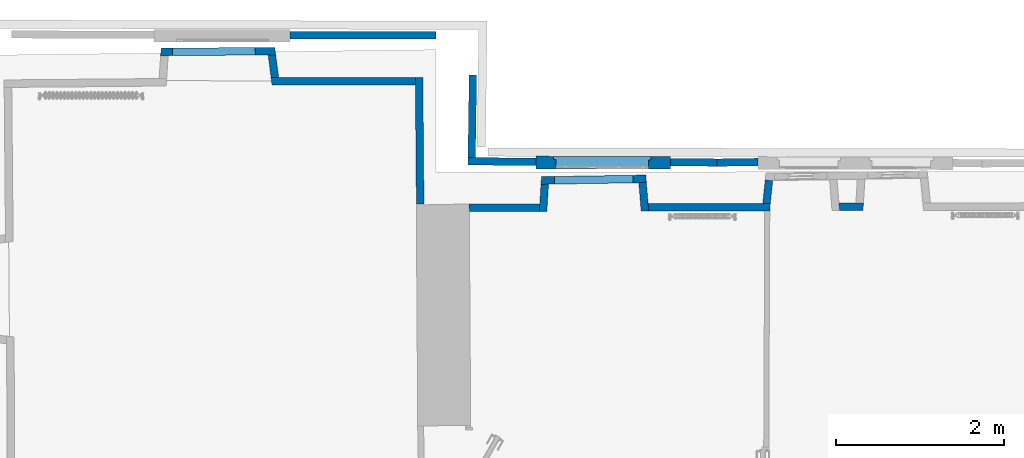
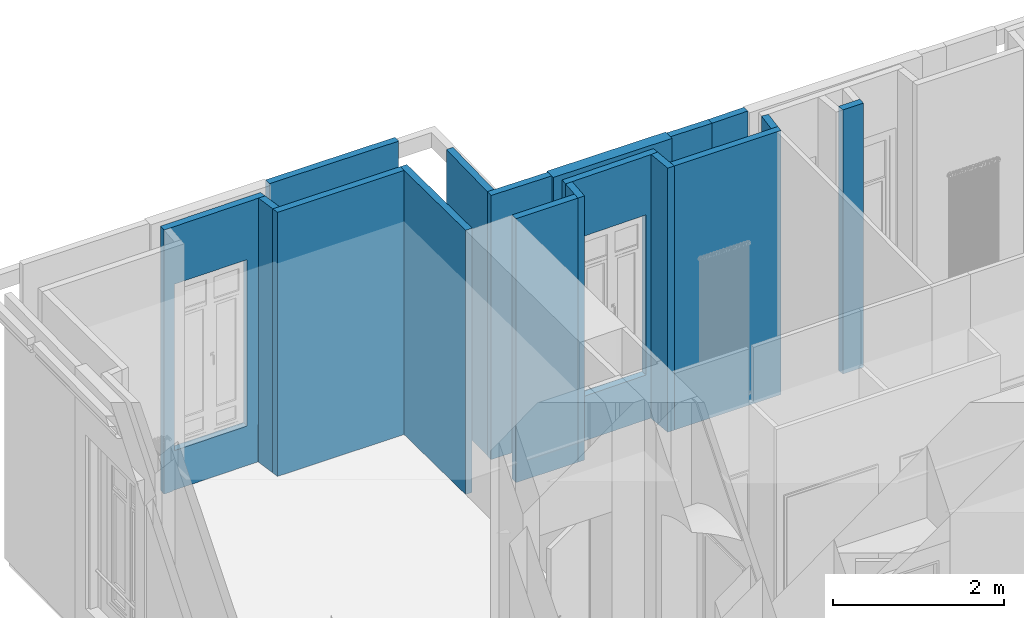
# One storey, part 15 of 66: 17 walls, 5 openings.
"""IFC2X3 building model written with IfcOpenShell, lengths in centimetres."""

from ifc_helpers import new_model, entity, si_unit, converted_unit, direction, frame, origin, origin_with_axes, origin_2d_with_axis, place, context, subcontext, project, spatial, polyline, rectangle, outline, extrude, faceted_brep, shape, material, layer, layer_set, layer_usage, type_object, element, save


model = new_model("IFC2X3")

# Units and contexts
model_context = context("Model", 3, precision=0.0001, world=origin(), true_north=direction((0.225632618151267, 0.974212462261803, 0.0)))
body_context = subcontext(model_context, "Body", "Model", "MODEL_VIEW")
footprint_context = subcontext(model_context, "FootPrint", "Model", "MODEL_VIEW")
profile_context = subcontext(model_context, "Profile", "Model", "MODEL_VIEW")
ifc_project = project(units=[si_unit("LENGTHUNIT", "METRE", prefix="CENTI"), si_unit("AREAUNIT", "SQUARE_METRE", prefix="CENTI"), si_unit("VOLUMEUNIT", "CUBIC_METRE", prefix="CENTI"), converted_unit("PLANEANGLEUNIT", "DEGREE", entity("IfcRatioMeasure", 0.0174532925), si_unit("PLANEANGLEUNIT", "RADIAN"), dimensions=[0, 0, 0, 0, 0, 0, 0])], contexts=[model_context])

# Site, building, storey
site_placement = place(None, origin_with_axes())
site = spatial("IfcSite", under=ifc_project, at=site_placement, Name="Default Site", CompositionType="ELEMENT")
building_placement = place(site_placement, origin_with_axes())
building = spatial("IfcBuilding", under=site, at=building_placement, Name="Default Building", CompositionType="ELEMENT")
storey_placement = place(building_placement, frame((0.0, 0.0, 477.795358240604), z_axis=(0.0, 0.0, 1.0), x_axis=(1.0, 0.0, 0.0)))
storey = spatial("IfcBuildingStorey", under=building, at=storey_placement, Name="Niveau 1", CompositionType="ELEMENT", Elevation=477.795358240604)

# Wall
ifc_material = material(Name="<aucun>")
ifc_layer_1 = layer(ifc_material, 9.0)
ifc_layer_set_1 = layer_set([ifc_layer_1], Name="default")
ifc_layer_usage_1 = layer_usage(ifc_layer_set_1, "AXIS2", "POSITIVE", -4.5)
wall_type_1 = type_object("IfcWallType", Name="default 90", PredefinedType="NOTDEFINED", material=ifc_layer_set_1)
wall_1_placement = place(storey_placement, frame((-458.289497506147, 551.679989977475, 0.0128503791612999), z_axis=(0.0, 0.0, 1.0), x_axis=(0.999997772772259, 0.00211055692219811, 0.0)))
element("IfcWallStandardCase", 1, at=wall_1_placement, inside=storey, type_object=wall_type_1, material=ifc_layer_usage_1, Name="Enveloppe 598906", context=body_context, shape_type="SweptSolid", body=[
    extrude(outline(polyline([(8.29841504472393, 4.50000000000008), (9.02436752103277, -4.49999999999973), (153.047073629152, -4.49999999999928), (153.065861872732, -1.60893389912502), (153.72388298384, 4.50000000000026), (8.29841504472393, 4.50000000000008)])), frame((0.0, 0.0, -1.77635683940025e-13), z_axis=(0.0, 0.0, 1.0), x_axis=(1.0, 0.0, 0.0)), (0.0, 0.0, 1.0), 376.102165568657),
])

# Wall, openings
ifc_layer_usage_2 = layer_usage(ifc_layer_set_1, "AXIS2", "POSITIVE", -4.5)
wall_2_placement = place(storey_placement, frame((-572.667445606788, 583.635452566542, 0.0128503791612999), z_axis=(0.0, 0.0, 1.0), x_axis=(0.999874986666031, 0.0158117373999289, 0.0)))
wall_2 = element("IfcWallStandardCase", 2, at=wall_2_placement, inside=storey, type_object=wall_type_1, material=ifc_layer_usage_2, Name="Enveloppe 598955", context=body_context, shape_type="SweptSolid", body=[
    extrude(outline(polyline([(-4.86319267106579, -4.4999999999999), (111.533863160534, -4.50000000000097), (120.51379938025, -3.89937907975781), (119.952008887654, 4.49999999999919), (-4.16393126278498, 4.50000000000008), (-4.86319267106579, -4.4999999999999)])), frame((0.0, 0.0, -8.88178419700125e-14), z_axis=(0.0, 0.0, 1.0), x_axis=(1.0, 0.0, 0.0)), (0.0, 0.0, 1.0), 376.102165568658),
])
opening_1_placement = place(wall_2_placement, frame((4.20605895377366, -2.27373675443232e-13, -1.78523862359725e-13), z_axis=(0.0, 0.0, 1.0), x_axis=(-1.0, 6.25888230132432e-15, 0.0)))
cartesian_point_1 = entity("IfcCartesianPoint", [0.0, 0.0, 60.9999999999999])
cartesian_point_2 = entity("IfcCartesianPoint", [-107.642500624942, -4.50000000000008])
element("IfcOpeningElement", 3, at=opening_1_placement, cuts=wall_2, Name="Baie 103653", ObjectType="Recess", shapes=[
    shape(body_context, "Body", "Brep", [faceted_brep([(-1.22123264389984e-05, 24.5000131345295, -1.92276753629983e-05), (-107.642482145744, 24.5000131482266, -1.92276753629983e-05), (-107.642482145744, 24.5000131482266, 60.9999941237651), (-1.22123264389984e-05, 24.5000131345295, 60.9999941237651), (-1.22149986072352e-05, 3.50000628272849, 60.9999941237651), (-1.22149986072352e-05, 3.50000628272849, -1.92276753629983e-05), (1.05937600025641e-05, 3.50000628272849, -1.92276753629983e-05), (-107.642507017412, 3.49999895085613, -1.92276753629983e-05), (-107.642482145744, 24.5000050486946, -1.92276753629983e-05), (-107.642482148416, 3.49999895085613, -1.92276753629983e-05), (-107.642482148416, 3.49999895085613, 60.9999941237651), (-107.642482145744, 24.5000050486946, 60.9999941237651), (-107.642507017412, 3.49999895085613, 60.9999941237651), (1.05937600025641e-05, 3.50000628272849, 60.9999941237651), (1.05937600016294e-05, 3.49999893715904, -1.92276753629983e-05), (1.05937600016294e-05, 3.49999893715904, 60.9999941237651)], [[[0, 1, 2, 3]], [[3, 4, 5, 0]], [[0, 6, 7, 8]], [[8, 9, 10, 11]], [[11, 12, 13, 3]], [[12, 7, 14, 15]]])]),
    shape(profile_context, "Profile", "GeometricCurveSet", [entity("IfcGeometricCurveSet", [entity("IfcPolyline", [cartesian_point_1, entity("IfcCartesianPoint", [0.0, 0.0, -8.88178419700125e-14]), entity("IfcCartesianPoint", [-107.642500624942, -8.88178419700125e-14, -8.88178419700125e-14]), entity("IfcCartesianPoint", [-107.642500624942, -8.88178419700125e-14, 60.9999999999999]), cartesian_point_1])])]),
    shape(footprint_context, "FootPrint", "GeometricCurveSet", [entity("IfcGeometricCurveSet", [entity("IfcPolyline", [cartesian_point_2, entity("IfcCartesianPoint", [8.88178419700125e-14, -4.50000000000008]), entity("IfcCartesianPoint", [0.0, 4.49999999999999]), entity("IfcCartesianPoint", [-107.642500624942, 4.49999999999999]), cartesian_point_2])])]),
])
opening_2_placement = place(wall_2_placement, frame((11.2718874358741, -1.13686837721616e-13, 64.5871496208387), z_axis=(0.0, 0.0, 1.0), x_axis=(-1.0, 6.25888230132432e-15, 0.0)))
cartesian_point_3 = entity("IfcCartesianPoint", [0.0, 8.88178419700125e-14, 228.0])
cartesian_point_4 = entity("IfcCartesianPoint", [-93.3169181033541, -4.49999999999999])
element("IfcOpeningElement", 4, at=opening_2_placement, cuts=wall_2, Name="4294966423_11", ObjectType="Opening", shapes=[
    shape(body_context, "Body", "SweptSolid", [extrude(outline(polyline([(-8.88178419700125e-14, 228.0), (-8.88178419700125e-14, 0.0), (93.3169181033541, 0.0), (93.3169181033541, 228.0), (-8.88178419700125e-14, 228.0)])), frame((0.0, -14.5, 0.0), z_axis=(0.0, 1.0, 0.0), x_axis=(-1.0, 0.0, 0.0)), (0.0, 0.0, 1.0), 29.0)]),
    shape(profile_context, "Profile", "GeometricCurveSet", [entity("IfcGeometricCurveSet", [entity("IfcPolyline", [cartesian_point_3, entity("IfcCartesianPoint", [0.0, 8.88178419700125e-14, 0.0]), entity("IfcCartesianPoint", [-93.3169181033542, 0.0, 0.0]), entity("IfcCartesianPoint", [-93.3169181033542, 0.0, 228.0]), cartesian_point_3])])]),
    shape(footprint_context, "FootPrint", "GeometricCurveSet", [entity("IfcGeometricCurveSet", [entity("IfcPolyline", [cartesian_point_4, entity("IfcCartesianPoint", [8.88178419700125e-14, -4.4999999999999]), entity("IfcCartesianPoint", [8.88178419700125e-14, 4.50000000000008]), entity("IfcCartesianPoint", [-93.3169181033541, 4.49999999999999]), cartesian_point_4])])]),
])

# Walls
ifc_layer_usage_3 = layer_usage(ifc_layer_set_1, "AXIS2", "POSITIVE", -4.5)
wall_3_placement = place(storey_placement, frame((-453.800008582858, 547.548886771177, 0.0128503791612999), z_axis=(0.0, 0.0, 1.0), x_axis=(-0.0825038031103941, 0.996590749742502, 0.0)))
element("IfcWallStandardCase", 5, at=wall_3_placement, inside=storey, type_object=wall_type_1, material=ifc_layer_usage_3, Name="Enveloppe 598813", context=body_context, shape_type="SweptSolid", body=[
    extrude(outline(polyline([(33.8372994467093, 4.50000000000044), (0.00237818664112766, 4.4999999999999), (-0.723574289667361, -4.50000000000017), (33.8372994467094, -4.49999999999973), (33.8372994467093, 4.50000000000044)])), frame((0.0, 0.0, -2.66453525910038e-13), z_axis=(0.0, 0.0, 1.0), x_axis=(1.0, 0.0, 0.0)), (0.0, 0.0, 1.0), 376.102165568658),
])
ifc_layer_usage_4 = layer_usage(ifc_layer_set_1, "AXIS2", "POSITIVE", -4.5)
wall_4_placement = place(storey_placement, frame((-574.918343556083, 547.216726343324, 0.0128503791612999), z_axis=(0.0, 0.0, 1.0), x_axis=(0.0616883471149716, 0.998095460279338, 0.0)))
element("IfcWallStandardCase", 6, at=wall_4_placement, inside=storey, type_object=wall_type_1, material=ifc_layer_usage_4, Name="Enveloppe 599147", context=body_context, shape_type="SweptSolid", body=[
    extrude(outline(polyline([(-0.57113787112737, 4.4999999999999), (0.00418676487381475, -4.49999999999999), (32.3242882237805, -4.50000000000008), (31.6250268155, 4.4999999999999), (-0.57113787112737, 4.4999999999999)])), frame((0.0, 0.0, 3.5527136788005e-13), z_axis=(0.0, 0.0, 1.0), x_axis=(1.0, 0.0, 0.0)), (0.0, 0.0, 1.0), 376.102165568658),
])
ifc_layer_usage_5 = layer_usage(ifc_layer_set_1, "AXIS2", "POSITIVE", -4.5)
wall_5_placement = place(storey_placement, frame((-662.774094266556, 551.248412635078, 0.0128503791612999), z_axis=(0.0, 0.0, 1.0), x_axis=(0.999997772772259, 0.00211055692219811, 0.0)))
element("IfcWallStandardCase", 7, at=wall_5_placement, inside=storey, type_object=wall_type_1, material=ifc_layer_usage_5, Name="Enveloppe 599253", context=body_context, shape_type="SweptSolid", body=[
    extrude(outline(polyline([(-0.0412481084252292, 4.49926005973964), (8.88178419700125e-14, -4.4999999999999), (83.3197766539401, -4.49999999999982), (83.8951012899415, 4.50000000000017), (-0.0412481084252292, 4.49926005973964)])), frame((0.0, 0.0, 1.77635683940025e-13), z_axis=(0.0, 0.0, 1.0), x_axis=(1.0, 0.0, 0.0)), (0.0, 0.0, 1.0), 376.102165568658),
])
ifc_layer_usage_6 = layer_usage(ifc_layer_set_1, "AXIS2", "POSITIVE", -4.5)
wall_6_placement = place(storey_placement, frame((-231.190129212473, 552.159297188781, 0.0128503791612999), z_axis=(0.0, 0.0, 1.0), x_axis=(0.999997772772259, 0.00211055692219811, 0.0)))
element("IfcWallStandardCase", 8, at=wall_6_placement, inside=storey, type_object=wall_type_1, material=ifc_layer_usage_6, Name="Enveloppe 600611", context=body_context, shape_type="SweptSolid", body=[
    extrude(outline(polyline([(8.28508144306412, 4.50000000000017), (9.00940482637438, -4.4999999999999), (36.7798989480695, -4.49999999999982), (37.3615292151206, 4.49999999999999), (8.28508144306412, 4.50000000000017)])), origin_with_axes(), (0.0, 0.0, 1.0), 376.102165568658),
])
ifc_layer_usage_7 = layer_usage(ifc_layer_set_1, "AXIS2", "POSITIVE", -4.5)
wall_7_placement = place(storey_placement, frame((-310.003293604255, 547.953298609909, 0.0128503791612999), z_axis=(0.0, 0.0, 1.0), x_axis=(0.104996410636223, 0.994472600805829, 0.0)))
element("IfcWallStandardCase", 9, at=wall_7_placement, inside=storey, type_object=wall_type_1, material=ifc_layer_usage_7, Name="Enveloppe 599931", context=body_context, shape_type="SweptSolid", body=[
    extrude(outline(polyline([(8.10433148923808, 4.49999999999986), (9.07376250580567, -4.50000000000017), (36.1382936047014, -4.50000000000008), (36.1382936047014, 4.49999999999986), (8.10433148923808, 4.49999999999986)])), frame((0.0, 0.0, -1.77635683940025e-13), z_axis=(0.0, 0.0, 1.0), x_axis=(1.0, 0.0, 0.0)), (0.0, 0.0, 1.0), 376.102165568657),
])
ifc_layer_usage_8 = layer_usage(ifc_layer_set_1, "AXIS2", "POSITIVE", -4.5)
wall_8_placement = place(storey_placement, frame((-726.901299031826, 701.47330937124, 0.0128503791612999), z_axis=(0.0, 0.0, 1.0), x_axis=(-0.999999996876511, 7.90378317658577e-05, 0.0)))
element("IfcWallStandardCase", 10, at=wall_8_placement, inside=storey, type_object=wall_type_1, material=ifc_layer_usage_8, Name="Enveloppe 601010", context=body_context, shape_type="SweptSolid", body=[
    extrude(outline(polyline([(171.655447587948, -4.49928262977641), (170.481127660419, 4.50071737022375), (-0.000711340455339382, 4.49999994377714), (2.8332891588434e-11, -4.49999999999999), (171.655447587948, -4.49928262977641)])), frame((0.0, 0.0, 3.5527136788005e-13), z_axis=(0.0, 0.0, 1.0), x_axis=(1.0, 0.0, 0.0)), (0.0, 0.0, 1.0), 376.102165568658),
])
ifc_layer_usage_9 = layer_usage(ifc_layer_set_1, "AXIS2", "POSITIVE", -4.5)
wall_9_placement = place(storey_placement, frame((-892.922933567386, 697.586858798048, 0.0128503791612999), z_axis=(0.0, 0.0, 1.0), x_axis=(-0.129304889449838, 0.991604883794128, 0.0)))
element("IfcWallStandardCase", 11, at=wall_9_placement, inside=storey, type_object=wall_type_1, material=ifc_layer_usage_9, Name="Enveloppe 601044", context=body_context, shape_type="SweptSolid", body=[
    extrude(outline(polyline([(36.3586303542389, 4.50000000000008), (9.05722088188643, 4.50009275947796), (7.88361230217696, -4.49999999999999), (35.2657350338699, -4.4999999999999), (36.3586303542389, 4.50000000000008)])), frame((0.0, 0.0, 1.77635683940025e-13), z_axis=(0.0, 0.0, 1.0), x_axis=(1.0, 0.0, 0.0)), (0.0, 0.0, 1.0), 376.102165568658),
])

# Wall, openings
ifc_layer_usage_10 = layer_usage(ifc_layer_set_1, "AXIS2", "POSITIVE", -4.5)
wall_10_placement = place(storey_placement, frame((-1025.23469400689, 736.471525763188, 0.0128503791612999), z_axis=(0.0, 0.0, 1.0), x_axis=(0.999961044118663, 0.00882667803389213, 0.0)))
wall_10 = element("IfcWallStandardCase", 12, at=wall_10_placement, inside=storey, type_object=wall_type_1, material=ifc_layer_usage_10, Name="Enveloppe 93830", context=body_context, shape_type="SweptSolid", body=[
    extrude(outline(polyline([(-4.82733297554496, -4.4999999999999), (132.179379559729, -4.49999999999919), (131.08648423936, 4.50000000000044), (-4.16534960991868, 4.49999999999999), (-4.82733297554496, -4.4999999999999)])), origin_with_axes(), (0.0, 0.0, 1.0), 376.102165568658),
])
opening_3_placement = place(wall_10_placement, frame((6.79993286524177, 3.41060513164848e-13, 1.77635683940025e-13), z_axis=(0.0, 0.0, 1.0), x_axis=(-1.0, -3.77128883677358e-15, 0.0)))
cartesian_point_5 = entity("IfcCartesianPoint", [0.0, 8.88178419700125e-14, 54.0])
cartesian_point_6 = entity("IfcCartesianPoint", [-116.319956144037, -4.49999999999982])
element("IfcOpeningElement", 13, at=opening_3_placement, cuts=wall_10, Name="Baie 115411", ObjectType="Recess", shapes=[
    shape(body_context, "Body", "Brep", [faceted_brep([(3.09080713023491e-05, 24.4999918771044, -1.92276756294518e-05), (-116.319960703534, 24.4999918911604, -1.92276756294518e-05), (-116.319960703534, 24.4999918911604, 53.9999769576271), (3.09080713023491e-05, 24.4999918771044, 53.9999769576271), (3.09055336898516e-05, 3.4999811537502, 53.9999769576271), (3.09055336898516e-05, 3.4999811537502, -1.92276756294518e-05), (-3.05080069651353e-05, 3.49998115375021, -1.92276756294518e-05), (-116.319926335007, 3.50002133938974, -1.92276756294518e-05), (-116.319960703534, 24.4999852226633, -1.92276756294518e-05), (-116.319960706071, 3.50002133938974, -1.92276756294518e-05), (-116.319960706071, 3.50002133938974, 53.9999769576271), (-116.319960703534, 24.4999852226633, 53.9999769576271), (-116.319926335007, 3.50002133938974, 53.9999769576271), (-3.05080069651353e-05, 3.49998115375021, 53.9999769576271), (-3.05080069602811e-05, 3.5000213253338, -1.92276756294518e-05), (-3.05080069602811e-05, 3.5000213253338, 53.9999769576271)], [[[0, 1, 2, 3]], [[3, 4, 5, 0]], [[0, 6, 7, 8]], [[8, 9, 10, 11]], [[11, 12, 13, 3]], [[12, 7, 14, 15]]])]),
    shape(profile_context, "Profile", "GeometricCurveSet", [entity("IfcGeometricCurveSet", [entity("IfcPolyline", [cartesian_point_5, entity("IfcCartesianPoint", [0.0, 8.88178419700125e-14, 0.0]), entity("IfcCartesianPoint", [-116.319956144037, 8.88178419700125e-14, 0.0]), entity("IfcCartesianPoint", [-116.319956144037, 8.88178419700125e-14, 54.0]), cartesian_point_5])])]),
    shape(footprint_context, "FootPrint", "GeometricCurveSet", [entity("IfcGeometricCurveSet", [entity("IfcPolyline", [cartesian_point_6, entity("IfcCartesianPoint", [0.0, -4.49999999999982]), entity("IfcCartesianPoint", [1.77635683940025e-13, 4.49999999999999]), entity("IfcCartesianPoint", [-116.319956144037, 4.49999999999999]), cartesian_point_6])])]),
])
opening_4_placement = place(wall_10_placement, frame((9.50330278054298, 0.0, 56.9871496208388), z_axis=(0.0, 0.0, 1.0), x_axis=(-1.0, -3.77128883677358e-15, 0.0)))
cartesian_point_7 = entity("IfcCartesianPoint", [0.0, 0.0, 237.0])
cartesian_point_8 = entity("IfcCartesianPoint", [-98.3512092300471, -4.50000000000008])
element("IfcOpeningElement", 14, at=opening_4_placement, cuts=wall_10, Name="4294966426_11", ObjectType="Opening", shapes=[
    shape(body_context, "Body", "SweptSolid", [extrude(outline(polyline([(-1.77635683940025e-13, 237.0), (-1.77635683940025e-13, 0.0), (98.3512092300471, 0.0), (98.3512092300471, 237.0), (-1.77635683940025e-13, 237.0)])), frame((0.0, -14.5, 0.0), z_axis=(0.0, 1.0, 0.0), x_axis=(-1.0, 0.0, 0.0)), (0.0, 0.0, 1.0), 29.0)]),
    shape(profile_context, "Profile", "GeometricCurveSet", [entity("IfcGeometricCurveSet", [entity("IfcPolyline", [cartesian_point_7, entity("IfcCartesianPoint", [0.0, 0.0, 0.0]), entity("IfcCartesianPoint", [-98.3512092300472, -8.88178419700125e-14, 0.0]), entity("IfcCartesianPoint", [-98.3512092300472, -8.88178419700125e-14, 237.0]), cartesian_point_7])])]),
    shape(footprint_context, "FootPrint", "GeometricCurveSet", [entity("IfcGeometricCurveSet", [entity("IfcPolyline", [cartesian_point_8, entity("IfcCartesianPoint", [1.77635683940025e-13, -4.50000000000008]), entity("IfcCartesianPoint", [1.77635683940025e-13, 4.4999999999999]), entity("IfcCartesianPoint", [-98.3512092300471, 4.49999999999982]), cartesian_point_8])])]),
])

# Walls
ifc_layer_usage_11 = layer_usage(ifc_layer_set_1, "AXIS2", "POSITIVE", -4.5)
wall_11_placement = place(storey_placement, frame((-721.086848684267, 546.208300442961, 0.0128503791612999), z_axis=(0.0, 0.0, 1.0), x_axis=(-0.00871943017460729, 0.999961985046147, 0.0)))
element("IfcWallStandardCase", 15, at=wall_11_placement, inside=storey, type_object=wall_type_1, material=ifc_layer_usage_11, Name="Enveloppe 93842", context=body_context, shape_type="SweptSolid", body=[
    extrude(outline(polyline([(150.809972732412, 4.49928869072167), (9.38749339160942, 4.50000000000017), (9.38749339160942, -4.4999999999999), (159.731138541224, -4.49999999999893), (159.809377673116, 4.42081602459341), (150.809972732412, 4.49928869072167)])), frame((0.0, 0.0, -1.77635683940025e-13), z_axis=(0.0, 0.0, 1.0), x_axis=(1.0, 0.0, 0.0)), (0.0, 0.0, 1.0), 376.102165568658),
])
ifc_layer_usage_12 = layer_usage(ifc_layer_set_1, "AXIS2", "POSITIVE", -4.5)
wall_type_2 = type_object("IfcWallType", Name="default 90", PredefinedType="NOTDEFINED", material=ifc_layer_set_1)
wall_12_placement = place(storey_placement, frame((-368.015156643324, 604.874015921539, 0.0128503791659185), z_axis=(0.0, 0.0, 1.0), x_axis=(0.999874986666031, 0.015811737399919, 0.0)))
element("IfcWallStandardCase", 16, at=wall_12_placement, inside=storey, type_object=wall_type_2, material=ifc_layer_usage_12, Name="Enveloppe 425244", context=body_context, shape_type="SweptSolid", body=[
    extrude(outline(polyline([(-0.107490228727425, -4.43082463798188), (2.56724538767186, -4.50000000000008), (48.6728734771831, -4.50001062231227), (48.8351215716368, 4.50000000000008), (0.123483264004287, 4.4999999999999), (-0.107490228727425, -4.43082463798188)])), origin_with_axes(), (0.0, 0.0, 1.0), 376.102165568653),
])
ifc_layer_usage_13 = layer_usage(ifc_layer_set_1, "AXIS2", "POSITIVE", -4.5)
wall_13_placement = place(storey_placement, frame((-368.007375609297, 604.941818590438, 0.0128503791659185), z_axis=(0.0, 0.0, 1.0), x_axis=(-0.999949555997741, 0.0100441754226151, 0.0)))
element("IfcWallStandardCase", 17, at=wall_13_placement, inside=storey, type_object=wall_type_2, material=ifc_layer_usage_13, Name="Enveloppe 425391", context=body_context, shape_type="SweptSolid", body=[
    extrude(outline(polyline([(55.5863421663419, 4.49999641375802), (-4.44089209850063e-14, 4.50000000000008), (-8.88178419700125e-14, -4.43381091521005), (-2.55926817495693, -4.50000000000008), (55.656509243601, -4.49999999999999), (55.5863421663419, 4.49999641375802)])), frame((0.0, 0.0, -3.5527136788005e-13), z_axis=(0.0, 0.0, 1.0), x_axis=(1.0, 0.0, 0.0)), (0.0, 0.0, 1.0), 376.102165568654),
])
ifc_layer_usage_14 = layer_usage(ifc_layer_set_1, "AXIS2", "POSITIVE", -4.5)
wall_14_placement = place(storey_placement, frame((-583.309198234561, 605.680265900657, 0.0128503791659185), z_axis=(0.0, 0.0, 1.0), x_axis=(-0.999938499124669, 0.0110904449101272, 0.0)))
element("IfcWallStandardCase", 18, at=wall_14_placement, inside=storey, type_object=wall_type_2, material=ifc_layer_usage_14, Name="Enveloppe 425414", context=body_context, shape_type="SweptSolid", body=[
    extrude(outline(polyline([(81.1709337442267, 4.50000000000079), (-0.0771600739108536, 4.50000000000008), (0.00206757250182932, -4.49999999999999), (81.1352160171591, -4.49999999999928), (81.1709337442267, 4.50000000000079)])), frame((0.0, 0.0, -1.77635683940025e-13), z_axis=(0.0, 0.0, 1.0), x_axis=(1.0, 0.0, 0.0)), (0.0, 0.0, 1.0), 376.102165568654),
])
ifc_layer_usage_15 = layer_usage(ifc_layer_set_1, "AXIS2", "POSITIVE", -4.5)
wall_15_placement = place(storey_placement, frame((-659.889489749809, 611.04776423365, 0.0128503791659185), z_axis=(0.0, 0.0, 1.0), x_axis=(0.0150587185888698, 0.999886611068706, 0.0)))
element("IfcWallStandardCase", 19, at=wall_15_placement, inside=storey, type_object=wall_type_2, material=ifc_layer_usage_15, Name="Enveloppe 425477", context=body_context, shape_type="SweptSolid", body=[
    extrude(outline(polyline([(-0.0357177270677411, 4.49999999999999), (0.0, -4.50000000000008), (98.2715789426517, -4.49999999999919), (98.2715789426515, 4.50000000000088), (-0.0357177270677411, 4.49999999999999)])), frame((0.0, 0.0, -4.88498130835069e-12), z_axis=(0.0, 0.0, 1.0), x_axis=(1.0, 0.0, 0.0)), (0.0, 0.0, 1.0), 376.102165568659),
])
ifc_layer_usage_16 = layer_usage(ifc_layer_set_1, "AXIS2", "POSITIVE", -4.5)
wall_16_placement = place(storey_placement, frame((-702.304382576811, 756.180053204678, 0.0128503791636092), z_axis=(0.0, 0.0, 1.0), x_axis=(-0.999997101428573, 0.0024077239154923, 0.0)))
element("IfcWallStandardCase", 20, at=wall_16_placement, inside=storey, type_object=wall_type_2, material=ifc_layer_usage_16, Name="Enveloppe 422540", context=body_context, shape_type="SweptSolid", body=[
    extrude(outline(polyline([(174.006589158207, 4.50000000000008), (0.216628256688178, 4.4999999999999), (0.216628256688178, -4.50000000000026), (174.020809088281, -4.4999999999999), (174.006589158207, 4.50000000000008)])), frame((0.0, 0.0, -2.75335310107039e-12), z_axis=(0.0, 0.0, 1.0), x_axis=(1.0, 0.0, 0.0)), (0.0, 0.0, 1.0), 376.102165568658),
])

# Wall, opening
ifc_layer_2 = layer(ifc_material, 15.0)
ifc_layer_set_2 = layer_set([ifc_layer_2], Name="default")
ifc_layer_usage_17 = layer_usage(ifc_layer_set_2, "AXIS2", "POSITIVE", -7.5)
wall_type_3 = type_object("IfcWallType", Name="default 150", PredefinedType="NOTDEFINED", material=ifc_layer_set_2)
wall_17_placement = place(storey_placement, frame((-423.628177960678, 604.624593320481, 0.0128503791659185), z_axis=(0.0, 0.0, 1.0), x_axis=(-0.999997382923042, 0.00228782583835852, 0.0)))
wall_17 = element("IfcWallStandardCase", 21, at=wall_17_placement, inside=storey, type_object=wall_type_3, material=ifc_layer_usage_17, Name="Enveloppe 426758", context=body_context, shape_type="SweptSolid", body=[
    extrude(rectangle(XDim=15.0, YDim=159.645472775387, at=origin_2d_with_axis()), frame((79.8227363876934, -6.21724893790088e-13, 1.77635683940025e-13), z_axis=(0.0, 0.0, 1.0), x_axis=(0.0, -1.0, 0.0)), (0.0, 0.0, 1.0), 376.102165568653),
])
opening_5_placement = place(wall_17_placement, frame((23.1032248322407, 1.13686837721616e-13, 46.3911492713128), z_axis=(0.0, 0.0, 1.0), x_axis=(-1.0, 5.62744295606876e-15, 0.0)))
cartesian_point_9 = entity("IfcCartesianPoint", [0.0, 8.88178419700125e-14, 247.973047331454])
cartesian_point_10 = entity("IfcCartesianPoint", [-115.608591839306, -7.49999999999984])
element("IfcOpeningElement", 22, at=opening_5_placement, cuts=wall_17, Name="Baie 426957", ObjectType="Opening", shapes=[
    shape(body_context, "Body", "Brep", [faceted_brep([(-2.99999509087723, -27.4999938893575, 247.973045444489), (-112.60859837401, -27.4999938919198, 247.973045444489), (-112.60859837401, -27.4999938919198, -1.51634215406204e-05), (-2.99999509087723, -27.4999938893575, -1.51634215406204e-05), (-7.07641261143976e-06, 27.5000230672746, -1.51634215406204e-05), (-115.608572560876, 27.500023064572, -1.51634215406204e-05), (-115.608572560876, 27.500023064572, 247.973045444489), (-7.07641261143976e-06, 27.5000230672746, 247.973045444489), (-2.99999509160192, 3.49998611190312, -1.51634215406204e-05), (-2.99999509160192, 3.49998611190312, 247.973045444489), (-3.00001196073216, 3.49998611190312, 247.973045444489), (-3.00001196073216, 3.49998611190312, -1.51634215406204e-05), (1.68780704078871e-05, 3.49998611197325, -1.51634215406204e-05), (1.68780704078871e-05, 3.49998611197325, 247.973045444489), (1.68780704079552e-05, 3.49998320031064, 247.973045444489), (1.68780704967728e-05, 3.49998320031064, -1.51634215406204e-05), (1.68775094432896e-05, 27.5000230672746, -1.51634215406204e-05), (1.68775093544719e-05, 27.5000230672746, 247.973045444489), (-112.60859837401, -27.4999906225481, -1.51634215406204e-05), (-112.608615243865, 3.49998937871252, -1.51634215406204e-05), (-115.608596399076, 3.49999239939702, -1.51634215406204e-05), (-115.608572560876, 27.4999846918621, -1.51634215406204e-05), (1.68780704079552e-05, 3.49998320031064, -1.51634215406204e-05), (-112.60859837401, -27.4999906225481, 247.973045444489), (-112.608598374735, 3.49998937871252, 247.973045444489), (-112.608598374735, 3.49998937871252, -1.51634215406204e-05), (-112.608615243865, 3.49998937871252, 247.973045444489), (-115.608596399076, 3.49998937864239, 247.973045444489), (-115.608596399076, 3.49998937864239, -1.51634215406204e-05), (-115.608596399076, 3.49999239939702, 247.973045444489), (-115.608596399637, 27.4999846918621, 247.973045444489), (-115.608596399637, 27.4999846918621, -1.51634215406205e-05), (-115.608572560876, 27.4999846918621, 247.973045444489)], [[[0, 1, 2, 3]], [[4, 5, 6, 7]], [[0, 3, 8, 9]], [[10, 11, 12, 13]], [[14, 15, 16, 17]], [[3, 18, 19, 20, 21, 4, 22, 11]], [[18, 23, 24, 25]], [[19, 26, 27, 28]], [[20, 29, 30, 31]], [[10, 14, 7, 32, 29, 26, 23, 0]]])]),
    shape(profile_context, "Profile", "GeometricCurveSet", [entity("IfcGeometricCurveSet", [entity("IfcPolyline", [cartesian_point_9, entity("IfcCartesianPoint", [0.0, 8.88178419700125e-14, 0.0]), entity("IfcCartesianPoint", [-115.608591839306, 8.88178419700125e-14, 0.0]), entity("IfcCartesianPoint", [-115.608591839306, 8.88178419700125e-14, 247.973047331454]), cartesian_point_9])])]),
    shape(footprint_context, "FootPrint", "GeometricCurveSet", [entity("IfcGeometricCurveSet", [entity("IfcPolyline", [cartesian_point_10, entity("IfcCartesianPoint", [0.0, -7.49999999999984]), entity("IfcCartesianPoint", [0.0, 7.50000000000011]), entity("IfcCartesianPoint", [-115.608591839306, 7.50000000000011]), cartesian_point_10])])]),
])

save(model, "model.ifc")
